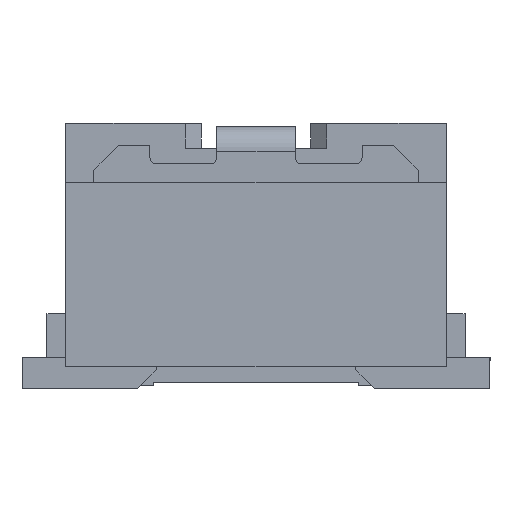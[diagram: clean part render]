
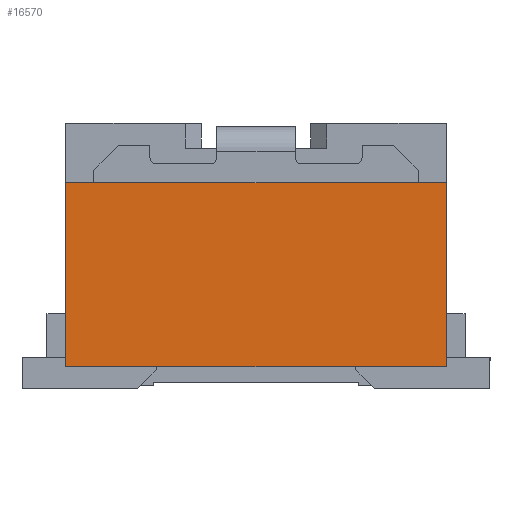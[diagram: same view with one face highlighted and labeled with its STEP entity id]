
A CAD part, left-side view. The second image highlights one B-rep face of the part: STEP entity #16570.
In plain terms, the highlighted planar face has unit normal (-1, 0, 0) as drawn and (1, 0, 0) by its records, which use the part's own axes.
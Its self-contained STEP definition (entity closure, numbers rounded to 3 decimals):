
#13010=CARTESIAN_POINT('',(13.013,-0.5,
2.4));
#13020=VERTEX_POINT('',#13010);
#14020=CARTESIAN_POINT('',(13.013,-0.5,
-3.7));
#14030=VERTEX_POINT('',#14020);
#14060=CARTESIAN_POINT('',(13.013,-0.5,0.));
#14070=DIRECTION('',(0.,0.,-1.));
#14080=VECTOR('',#14070,1.);
#14090=LINE('',#14060,#14080);
#14100=EDGE_CURVE('',#13020,#14030,#14090,.T.);
#15210=CARTESIAN_POINT('',(13.013,-3.45,
-3.7));
#15220=VERTEX_POINT('',#15210);
#15250=CARTESIAN_POINT('',(13.013,0.,-3.7));
#15260=DIRECTION('',(0.,-1.,0.));
#15270=VECTOR('',#15260,1.);
#15280=LINE('',#15250,#15270);
#15290=EDGE_CURVE('',#14030,#15220,#15280,.T.);
#15430=CARTESIAN_POINT('',(13.013,-3.45,
2.4));
#15440=VERTEX_POINT('',#15430);
#15470=CARTESIAN_POINT('',(13.013,-3.45,0.));
#15480=DIRECTION('',(0.,0.,1.));
#15490=VECTOR('',#15480,1.);
#15500=LINE('',#15470,#15490);
#15510=EDGE_CURVE('',#15220,#15440,#15500,.T.);
#15630=CARTESIAN_POINT('',(13.013,0.,2.4));
#15640=DIRECTION('',(0.,1.,0.));
#15650=VECTOR('',#15640,1.);
#15660=LINE('',#15630,#15650);
#15670=EDGE_CURVE('',#15440,#13020,#15660,.T.);
#16460=CARTESIAN_POINT('',(13.013,-0.426,
-3.853));
#16470=DIRECTION('',(1.,0.,0.));
#16480=DIRECTION('',(0.,-1.,0.));
#16490=AXIS2_PLACEMENT_3D('',#16460,#16470,#16480);
#16500=PLANE('',#16490);
#16510=ORIENTED_EDGE('',*,*,#15510,.F.);
#16520=ORIENTED_EDGE('',*,*,#15670,.F.);
#16530=ORIENTED_EDGE('',*,*,#14100,.F.);
#16540=ORIENTED_EDGE('',*,*,#15290,.F.);
#16550=EDGE_LOOP('',(#16540,#16530,#16520,#16510));
#16560=FACE_OUTER_BOUND('',#16550,.T.);
#16570=ADVANCED_FACE('',(#16560),#16500,.T.);
